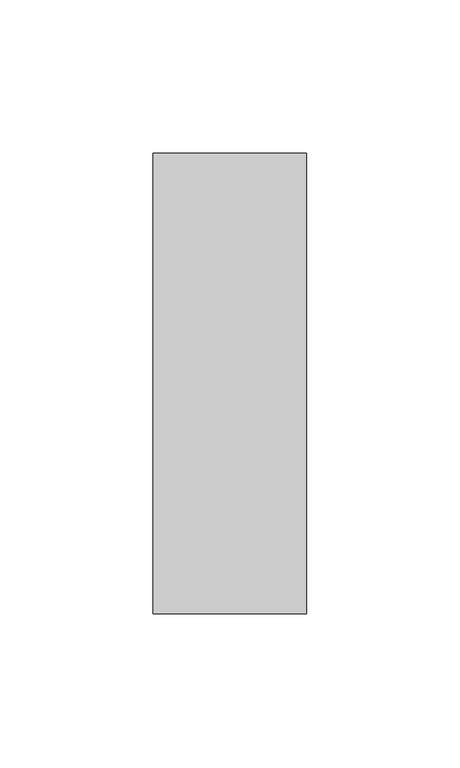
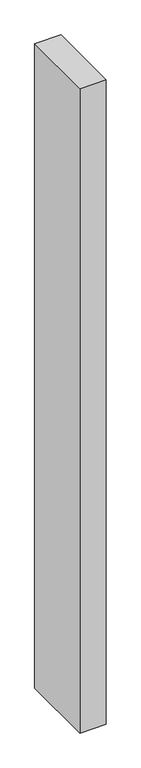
"""IFC4 building model written with IfcOpenShell, lengths in millimetres: member geometry, Прямоугольный импост : 50 x 150 мм."""

from ifc_helpers import new_model, si_unit, frame, origin, place, context, project, spatial, polyline, outline, extrude, source, transform, mapped, element, save


def member_c5c4e1a0(model_context):
    return source(origin(), model_context, "Body", "SweptSolid", [
        extrude(outline(polyline([(25.0, 75.0), (25.0, -75.0), (-25.0, -75.0), (-25.0, 75.0), (25.0, 75.0)])), frame((0.0, 0.0, -1304.1567777), z_axis=(0.0, 0.0, 1.0), x_axis=(1.0, 0.0, 0.0)), (0.0, 0.0, 1.0), 1304.1567777),
    ])


if __name__ == "__main__":
    model = new_model("IFC4")
    model_context = context("Model", 3, world=origin())
    ifc_project = project(units=[si_unit("LENGTHUNIT", "METRE", prefix="MILLI")], contexts=[model_context])
    site = spatial("IfcSite", under=ifc_project)
    building = spatial("IfcBuilding", under=site)
    placement = place(None, origin())
    member_shape = member_c5c4e1a0(model_context)
    element("IfcMember", 1, ObjectType="Прямоугольный импост : 50 x 150 мм", at=placement, inside=building, context=model_context, shape_type="MappedRepresentation", body=[
        mapped(member_shape, transform((0.0, 0.0, 0.0), x_axis=(1.0, 0.0, 0.0), y_axis=(0.0, 1.0, 0.0), z_axis=(0.0, 0.0, 1.0))),
    ])
    save(model, "model.ifc")
